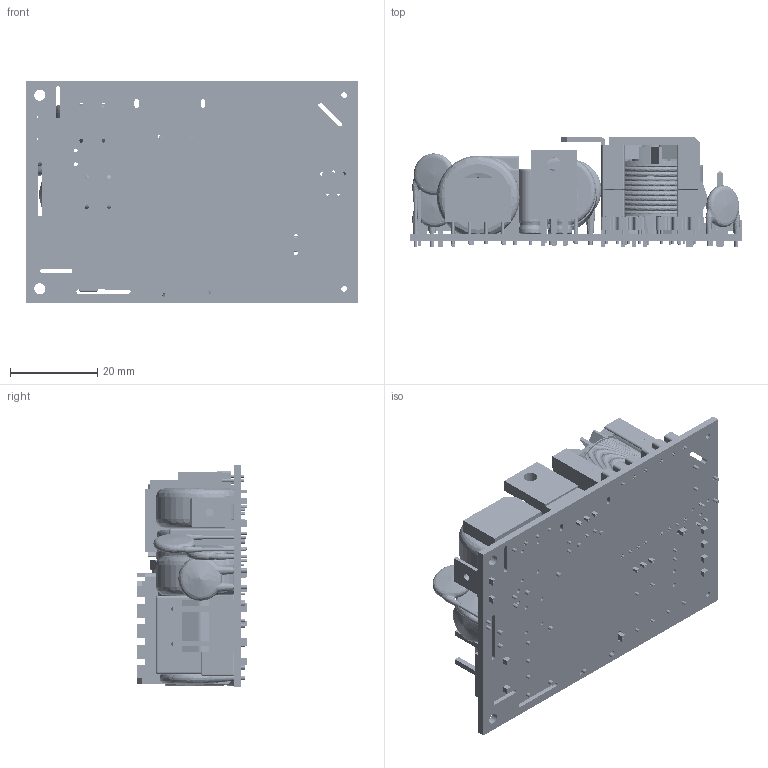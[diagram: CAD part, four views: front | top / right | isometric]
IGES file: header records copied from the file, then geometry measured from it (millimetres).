
Start section: SolidWorks IGES file using analytic representation for surfaces
Global section: file name: C:\Documents and Settings\behzar\Desktop\BEHZAR\PROJECTS\CURRENT-2010\SW-MODELS\WORKING\STEP-2\ECS45-5V-SINGLE-OUTPUT.IGS; native system: SolidWorks 2010; preprocessor: SolidWorks 2010; author: BEHZAR; date: 100629.110910; units: inch
Bounding box: 76.2 x 25.08 x 50.8 mm (x, y, z)
Surface area: 33876.4 mm2 (no closed solid volume)
Topology: 0 solids, 0 shells, 1773 faces, 17509 edges, 17464 vertices
Faces by surface type: bspline 1020, revolution 753
